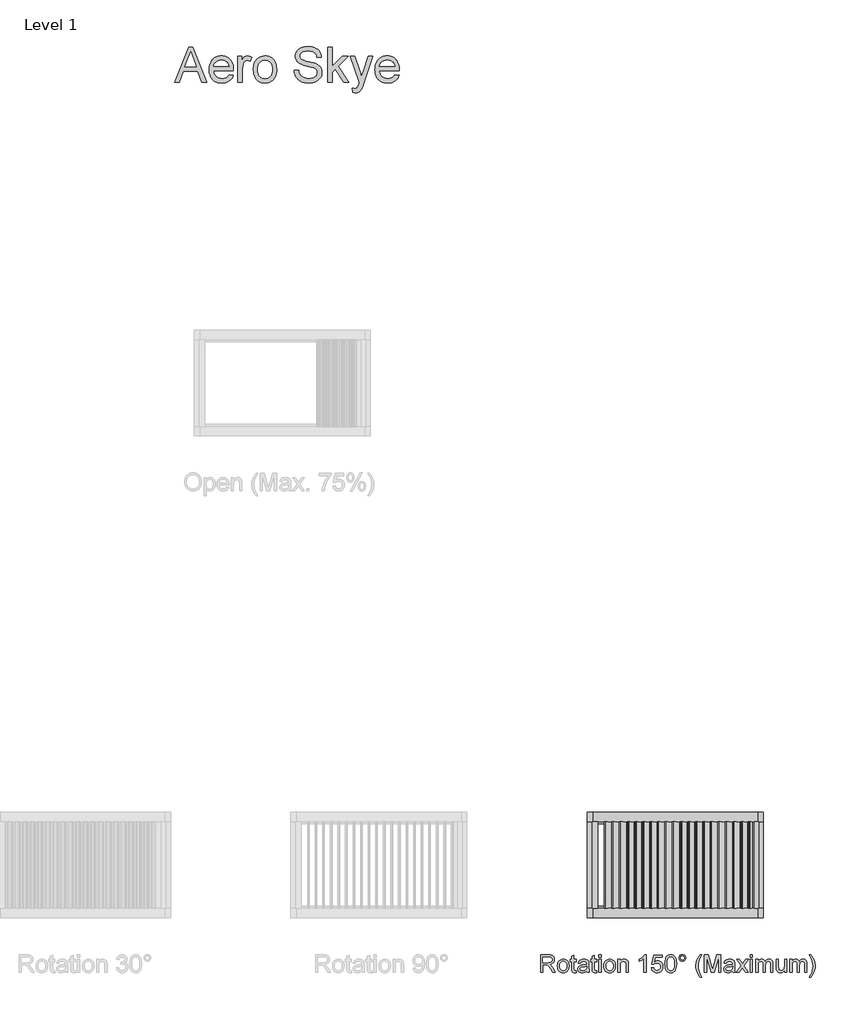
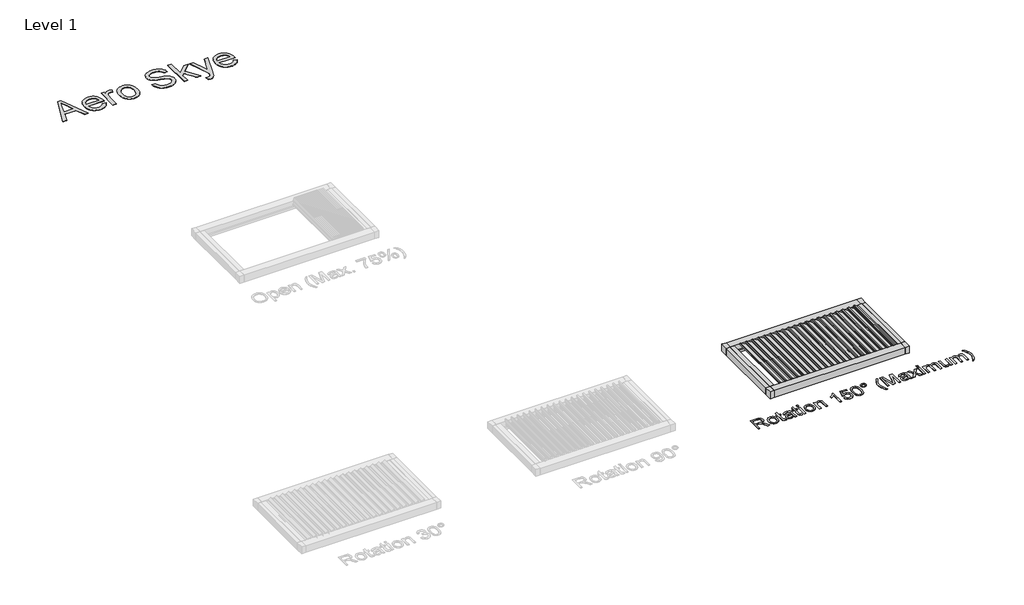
# One storey, part 12 of 12: 3 proxies.
"""IFC4 building model written with IfcOpenShell, lengths in millimetres."""

from ifc_helpers import new_model, si_unit, origin, origin_with_axes, place, context, project, spatial, polyline, outline, extrude, transform, mapped, element, save
from components import generic_models_ff80af85

model = new_model("IFC4")

# Units and contexts
model_context = context("Model", 3, world=origin())
ifc_project = project(units=[si_unit("LENGTHUNIT", "METRE", prefix="MILLI")], contexts=[model_context])

# Site, building, storey
site = spatial("IfcSite", under=ifc_project)
building = spatial("IfcBuilding", under=site)
storey = spatial("IfcBuildingStorey", under=building, Name="Level 1", Elevation=0.0)

# Proxies
placement = place(None, origin())
generic_models_shape = generic_models_ff80af85(model_context)
element("IfcBuildingElementProxy", 1, Name="Renson_Aero_Skye_Patio covers : Aero Skye - Single", ObjectType="Renson_Aero_Skye_Patio covers : Aero Skye - Single", at=placement, inside=storey, context=model_context, shape_type="MappedRepresentation", body=[
    mapped(generic_models_shape, transform((64654.2025974, 17701.5921629, 0.0), x_axis=(1.0, 0.0, 0.0), y_axis=(0.0, 1.0, 0.0), z_axis=(0.0, 0.0, 1.0))),
])
element("IfcBuildingElementProxy", 2, Name="1000mm Arial", ObjectType="1000mm Arial", at=placement, inside=storey, context=model_context, shape_type="SweptSolid", body=[
    extrude(outline(polyline([(50430.6996653, 39924.3053574), (50831.69104, 40928.8684589), (50938.6220733, 40928.8684589), (51339.613448, 39924.3053574), (51206.9306751, 39924.3053574), (51091.9062379, 40238.2313266), (50678.1616207, 40238.2313266), (50563.3824382, 39924.3053574), (50430.6996653, 39924.3053574)]), holes=[polyline([(50724.2694974, 40363.8017143), (51046.0436159, 40363.8017143), (50955.5446451, 40610.7731604), (50885.1565567, 40803.2980712), (50822.6166175, 40632.3555708), (50724.2694974, 40363.8017143)])]), origin_with_axes(), (0.0, 0.0, 1.0), 5.0),
    extrude(outline(polyline([(51974.5777717, 40144.0535358), (52097.6956128, 40128.3572374), (52078.8186679, 40079.0457216), (52053.3351755, 40035.5896609), (52021.2451356, 39997.9890553), (51982.5485483, 39966.2439048), (51937.6439522, 39941.0286598), (51886.9298864, 39923.0177704), (51830.4063506, 39912.2112368), (51768.0733451, 39908.6090589), (51728.0546818, 39910.1629771), (51690.1590042, 39914.8247318), (51654.3863123, 39922.5943229), (51620.736606, 39933.4717504), (51589.2098855, 39947.4570144), (51559.8061506, 39964.5501148), (51532.5254014, 39984.7510517), (51507.3676378, 40008.059825), (51484.7773841, 40034.1736985), (51465.1991641, 40062.789936), (51448.632978, 40093.9085374), (51435.0788258, 40127.5295029), (51424.5367074, 40163.6528323), (51417.0066228, 40202.2785258), (51412.488572, 40243.4065832), (51410.9825551, 40287.0370046), (51412.5039004, 40332.1523664), (51417.0679364, 40374.6695616), (51424.6746631, 40414.5885902), (51435.3240804, 40451.9094521), (51449.0161885, 40486.6321475), (51465.7509871, 40518.7566763), (51485.5284765, 40548.2830386), (51508.3486565, 40575.2112342), (51533.5945584, 40599.238527), (51560.6492135, 40620.0621808), (51589.5126217, 40637.6821955), (51620.184783, 40652.0985712), (51652.6656975, 40663.3113078), (51686.9553651, 40671.3204054), (51723.0537859, 40676.125864), (51760.9609598, 40677.7276835), (51797.6284481, 40676.1296961), (51832.5829858, 40671.3357338), (51865.8245729, 40663.3457968), (51897.3532096, 40652.1598848), (51927.1688956, 40637.7779981), (51955.2716312, 40620.2001365), (51981.6614162, 40599.4263001), (52006.3382506, 40575.4564889), (52028.6698374, 40548.5896069), (52048.0238792, 40519.1245583), (52064.4003761, 40487.0613432), (52077.7993282, 40452.3999615), (52088.2207353, 40415.1404131), (52095.6645976, 40375.2826982), (52101.6196874, 40287.7727686), (52100.8839234, 40253.9276251), (51536.5529428, 40253.9276251), (51543.8262764, 40203.8190316), (51558.2886373, 40159.9337753), (51579.9400256, 40122.271856), (51608.7804412, 40090.8332739), (51643.2157288, 40066.0472244), (51681.6517331, 40048.3429034), (51724.088454, 40037.7203108), (51770.5258917, 40034.1794466), (51805.2600834, 40035.8195872), (51837.3577875, 40040.7400089), (51866.819004, 40048.9407117), (51893.6437328, 40060.4216956), (51917.831974, 40075.489529), (51939.3837275, 40094.4507802), (51958.2989934, 40117.3054491), (51974.5777717, 40144.0535358)]), holes=[polyline([(51536.5529428, 40379.4980128), (51976.0492997, 40379.4980128), (51969.5960364, 40415.0292821), (51959.0654142, 40445.8393992), (51944.4574334, 40471.928364), (51925.7720937, 40493.2961766), (51891.5284113, 40519.0479163), (51852.5635766, 40537.442016), (51808.8775897, 40548.4784759), (51760.4704505, 40552.1572958), (51716.3169469, 40549.2219041), (51675.8269348, 40540.4157288), (51639.0004142, 40525.73877), (51605.8373852, 40505.1910278), (51578.0086451, 40479.7228638), (51557.1849913, 40450.28464), (51543.3664239, 40416.8763563), (51536.5529428, 40379.4980128)])]), origin_with_axes(), (0.0, 0.0, 1.0), 5.0),
    extrude(outline(polyline([(52227.1900751, 39924.3053574), (52227.1900751, 40662.0313851), (52337.0641643, 40662.0313851), (52337.0641643, 40552.8930598), (52377.6538111, 40616.168763), (52396.753018, 40638.0577417), (52415.0551473, 40653.4474718), (52452.5791108, 40671.6576306), (52493.5366396, 40677.7276835), (52524.6839818, 40675.3057937), (52556.0765788, 40668.0401243), (52587.7144303, 40655.9306753), (52619.5975366, 40638.9774467), (52577.6589891, 40526.4055562), (52533.5131497, 40545.7193609), (52511.44023, 40550.5478121), (52489.3673103, 40552.1572958), (52470.1224834, 40550.6091258), (52451.8740036, 40545.9646156), (52434.6218709, 40538.2237653), (52418.3660852, 40527.3865748), (52403.7197833, 40513.8055978), (52391.2961017, 40497.8333879), (52373.1165998, 40458.7152691), (52357.849497, 40388.5724353), (52352.7604628, 40312.0529803), (52352.7604628, 39924.3053574), (52227.1900751, 39924.3053574)])), origin_with_axes(), (0.0, 0.0, 1.0), 5.0),
    extrude(outline(polyline([(52666.686432, 40293.1683712), (52668.3840541, 40342.591018), (52673.4769205, 40388.7103911), (52681.9650311, 40431.5264903), (52693.8483859, 40471.0393159), (52709.1269851, 40507.2488677), (52727.8008284, 40540.1551457), (52749.869916, 40569.75815), (52775.3342479, 40596.0578806), (52823.1895641, 40631.7884194), (52876.0112872, 40657.3102328), (52933.7994173, 40672.6233208), (52996.5539543, 40677.7276835), (53032.021994, 40676.1737653), (53065.8307325, 40671.5120106), (53097.98017, 40663.7424195), (53128.4703064, 40652.864992), (53157.3011417, 40638.879728), (53184.472676, 40621.7866276), (53209.9849091, 40601.5856908), (53233.8378412, 40578.2769175), (53255.4221676, 40552.2281898), (53274.1285839, 40523.8073896), (53289.9570899, 40493.0145169), (53302.9076858, 40459.8495719), (53312.9803715, 40424.3125543), (53320.1751469, 40386.4034644), (53325.9309673, 40303.4690671), (53323.3864502, 40236.2539609), (53315.7528988, 40176.6110924), (53303.0303131, 40124.5404617), (53285.2186932, 40080.0420687), (53262.540301, 40041.6060644), (53235.2173987, 40007.7225998), (53203.2499861, 39978.3916749), (53166.6380634, 39953.6132897), (53126.8071732, 39933.9239387), (53085.1828583, 39919.8601166), (53041.7651187, 39911.4218234), (52996.5539543, 39908.6090589), (52960.5264275, 39910.157229), (52926.2655006, 39914.8017392), (52893.7711738, 39922.5425895), (52863.0434469, 39933.3797799), (52834.08232, 39947.3133105), (52806.8877932, 39964.3431812), (52781.4598663, 39984.469392), (52757.7985394, 40007.691943), (52736.4441393, 40033.826893), (52717.9369924, 40062.6903012), (52702.277099, 40094.2821676), (52689.4644588, 40128.602492), (52679.4990721, 40165.6512746), (52672.3809387, 40205.4285154), (52666.686432, 40293.1683712)]), holes=[polyline([(52792.2568197, 40293.4136259), (52795.8896544, 40232.5061631), (52806.7881585, 40179.7687462), (52824.952332, 40135.2013753), (52850.3821749, 40098.8040504), (52881.3149193, 40070.5307863), (52915.9877974, 40050.3355976), (52954.400809, 40038.2184844), (52996.5539543, 40034.1794466), (53038.4925018, 40038.241477), (53076.7522293, 40050.4275681), (53111.3331368, 40070.7377199), (53142.2352244, 40099.1719324), (53167.6650673, 40135.9294751), (53185.8292408, 40181.2096174), (53196.7277449, 40235.0123592), (53200.3605796, 40297.3377005), (53196.7047523, 40356.3137829), (53185.7372703, 40407.6716422), (53167.4581337, 40451.4112786), (53141.8673424, 40487.532692), (53110.8502917, 40515.8059562), (53076.2923768, 40536.0011449), (53038.1935976, 40548.1182581), (52996.5539543, 40552.1572958), (52954.400809, 40548.1335865), (52915.9877974, 40536.0624585), (52881.3149193, 40515.9439119), (52850.3821749, 40487.7779467), (52824.952332, 40451.4879207), (52806.7881585, 40406.9971919), (52795.8896544, 40354.3057603), (52792.2568197, 40293.4136259)])]), origin_with_axes(), (0.0, 0.0, 1.0), 5.0),
    extrude(outline(polyline([(53828.2125181, 40269.6239235), (53953.7829058, 40269.6239235), (53959.5310619, 40233.0733145), (53968.1916172, 40199.9409423), (53979.7645717, 40170.226807), (53994.2499252, 40143.9309085), (54012.3834419, 40120.5244166), (54034.9008857, 40099.4785008), (54061.8022566, 40080.7931611), (54093.0875546, 40064.4683976), (54127.6071485, 40051.2169815), (54164.211407, 40041.7516844), (54202.9003302, 40036.0725061), (54243.673918, 40034.1794466), (54313.6328107, 40039.9122744), (54345.3473044, 40047.0783091), (54374.8851629, 40057.1107576), (54401.5182865, 40069.6494023), (54424.5185754, 40084.3340253), (54443.8860296, 40101.1646266), (54459.6206491, 40120.1412062), (54471.799076, 40140.4436938), (54480.4979524, 40161.2520191), (54485.7172782, 40182.5661822), (54487.4570534, 40204.3861831), (54482.2453918, 40246.416701), (54466.610407, 40282.745048), (54453.4586257, 40298.8628779), (54434.8499281, 40313.7391061), (54410.7843143, 40327.3737326), (54381.2617842, 40339.7667573), (54314.9510545, 40359.4791009), (54198.4244326, 40387.714044), (54078.4029316, 40419.4438661), (54034.6019816, 40434.7339615), (54001.6075651, 40449.6408465), (53968.0766541, 40469.64443), (53939.0982828, 40491.8859623), (53914.6724511, 40516.3654434), (53894.7991592, 40543.0828733), (53879.4017649, 40571.7623405), (53868.403626, 40602.1279335), (53861.8047428, 40634.1796523), (53859.605115, 40667.917497), (53862.3259089, 40705.3111689), (53870.4882907, 40741.4632392), (53884.0922603, 40776.3737077), (53903.1378178, 40810.0425744), (53927.4103652, 40841.0979462), (53956.6953049, 40868.1679297), (53990.9926367, 40891.2525249), (54030.3023608, 40910.3517318), (54073.2985689, 40925.3199305), (54118.6553533, 40936.011501), (54166.3727137, 40942.4264433), (54216.4506503, 40944.5647573), (54271.0811266, 40942.3268085), (54322.4006649, 40935.6129621), (54370.4092653, 40924.4232181), (54415.1069277, 40908.7575765), (54455.6659177, 40888.753993), (54491.2585007, 40864.5504234), (54521.8846768, 40836.1468677), (54547.544446, 40803.5433259), (54568.0385388, 40767.6901598), (54583.1676858, 40729.5377312), (54592.9318871, 40689.0860401), (54597.3311427, 40646.3350866), (54471.760755, 40646.3350866), (54463.3607827, 40686.4035672), (54448.7068166, 40721.2603863), (54427.7988565, 40750.9055437), (54400.6369026, 40775.3390396), (54366.7151169, 40794.4382465), (54325.5276619, 40808.0805371), (54277.0745374, 40816.2659115), (54221.3557436, 40818.9943697), (54163.8588534, 40816.2965684), (54114.7312787, 40808.2031645), (54073.9730193, 40794.714158), (54041.5840753, 40775.8295489), (54016.9053248, 40753.1281641), (53999.2776458, 40728.1888305), (53988.7010385, 40701.0115481), (53985.1755027, 40671.5963169), (53987.6740346, 40646.2891013), (53995.1696302, 40623.3424619), (54007.6622896, 40602.7563986), (54025.1520128, 40584.5309114), (54052.6818488, 40567.2711145), (54096.0306106, 40549.8273765), (54155.1982981, 40532.1996976), (54230.1849115, 40514.3880777), (54368.631169, 40480.7268751), (54417.3448765, 40465.5057575), (54452.3856366, 40451.3576291), (54490.8829545, 40429.9131745), (54523.9693415, 40405.8015754), (54551.6447974, 40379.0228318), (54573.9093223, 40349.5769438), (54591.0234993, 40317.6171955), (54603.2479114, 40283.296871), (54610.5825587, 40246.6159704), (54613.0274411, 40207.5744937), (54610.2146767, 40168.2954265), (54601.7763834, 40130.1659905), (54587.7125613, 40093.1861858), (54568.0232104, 40057.3560123), (54543.05322, 40024.0626917), (54513.1474794, 39994.6934458), (54478.3059888, 39969.2482745), (54438.5287481, 39947.7271778), (54394.9730527, 39930.6130008), (54348.7961981, 39918.3885886), (54299.9981843, 39911.0539414), (54248.5790112, 39908.6090589), (54184.345282, 39911.2455466), (54125.5531407, 39919.1550095), (54072.2025872, 39932.3374476), (54024.2936215, 39950.792861), (53981.5350038, 39974.5519066), (53943.6354941, 40003.645241), (53910.5950924, 40038.0728644), (53882.4137987, 40077.8347767), (53859.7124139, 40121.643391), (53843.1117389, 40168.2111202), (53832.6117736, 40217.5379644), (53828.2125181, 40269.6239235)])), origin_with_axes(), (0.0, 0.0, 1.0), 5.0),
    extrude(outline(polyline([(54785.6867242, 39924.3053574), (54785.6867242, 40928.8684589), (54911.2571119, 40928.8684589), (54911.2571119, 40389.0629446), (55192.8094655, 40662.0313851), (55366.4497672, 40662.0313851), (55081.4638483, 40385.6293793), (55382.1460657, 39924.3053574), (55235.483777, 39924.3053574), (54991.4553868, 40298.3187192), (54911.2571119, 40220.5729908), (54911.2571119, 39924.3053574), (54785.6867242, 39924.3053574)])), origin_with_axes(), (0.0, 0.0, 1.0), 5.0),
    extrude(outline(polyline([(55492.0201549, 39641.7719851), (55476.3238565, 39762.6825342), (55510.536882, 39754.4051893), (55540.090069, 39751.6460743), (55573.6286442, 39755.1102964), (55599.6869522, 39765.5029628), (55619.9817756, 39782.0883094), (55636.229897, 39804.1305723), (55650.0867855, 39836.5655015), (55670.5655499, 39896.5915804), (55680.3757365, 39927.0031587), (55413.5386626, 40662.0313851), (55545.9761809, 40662.0313851), (55687.4881217, 40252.4560971), (55713.5464297, 40172.5030768), (55736.7843091, 40088.6259819), (55786.0804964, 40233.3262333), (55931.5165118, 40662.0313851), (56062.9730114, 40662.0313851), (55806.1913788, 39906.6470216), (55768.0542786, 39806.2152369), (55739.4821103, 39742.8169064), (55705.3303985, 39690.5163495), (55686.5530883, 39670.3901386), (55666.6414753, 39654.2799729), (55645.1663638, 39641.9405977), (55621.6985582, 39633.1267582), (55596.2380585, 39627.8384545), (55568.7848646, 39626.0756866), (55532.4258607, 39629.9997612), (55492.0201549, 39641.7719851)])), origin_with_axes(), (0.0, 0.0, 1.0), 5.0),
    extrude(outline(polyline([(56683.46731, 40144.0535358), (56806.585151, 40128.3572374), (56787.7082061, 40079.0457216), (56762.2247138, 40035.5896609), (56730.1346739, 39997.9890553), (56691.4380865, 39966.2439048), (56646.5334905, 39941.0286598), (56595.8194246, 39923.0177704), (56539.2958889, 39912.2112368), (56476.9628833, 39908.6090589), (56436.9442201, 39910.1629771), (56399.0485425, 39914.8247318), (56363.2758505, 39922.5943229), (56329.6261443, 39933.4717504), (56298.0994237, 39947.4570144), (56268.6956888, 39964.5501148), (56241.4149396, 39984.7510517), (56216.2571761, 40008.059825), (56193.6669223, 40034.1736985), (56174.0887024, 40062.789936), (56157.5225163, 40093.9085374), (56143.968364, 40127.5295029), (56133.4262456, 40163.6528323), (56125.896161, 40202.2785258), (56121.3781103, 40243.4065832), (56119.8720934, 40287.0370046), (56121.3934387, 40332.1523664), (56125.9574747, 40374.6695616), (56133.5642014, 40414.5885902), (56144.2136187, 40451.9094521), (56157.9057267, 40486.6321475), (56174.6405254, 40518.7566763), (56194.4180147, 40548.2830386), (56217.2381948, 40575.2112342), (56242.4840967, 40599.238527), (56269.5387517, 40620.0621808), (56298.4021599, 40637.6821955), (56329.0743213, 40652.0985712), (56361.5552358, 40663.3113078), (56395.8449034, 40671.3204054), (56431.9433242, 40676.125864), (56469.8504981, 40677.7276835), (56506.5179863, 40676.1296961), (56541.472524, 40671.3357338), (56574.7141112, 40663.3457968), (56606.2427478, 40652.1598848), (56636.0584339, 40637.7779981), (56664.1611694, 40620.2001365), (56690.5509544, 40599.4263001), (56715.2277889, 40575.4564889), (56737.5593756, 40548.5896069), (56756.9134175, 40519.1245583), (56773.2899144, 40487.0613432), (56786.6888665, 40452.3999615), (56797.1102736, 40415.1404131), (56804.5541358, 40375.2826982), (56810.5092256, 40287.7727686), (56809.7734617, 40253.9276251), (56245.442481, 40253.9276251), (56252.7158147, 40203.8190316), (56267.1781756, 40159.9337753), (56288.8295639, 40122.271856), (56317.6699794, 40090.8332739), (56352.105267, 40066.0472244), (56390.5412713, 40048.3429034), (56432.9779923, 40037.7203108), (56479.41543, 40034.1794466), (56514.1496217, 40035.8195872), (56546.2473258, 40040.7400089), (56575.7085422, 40048.9407117), (56602.533271, 40060.4216956), (56626.7215122, 40075.489529), (56648.2732658, 40094.4507802), (56667.1885317, 40117.3054491), (56683.46731, 40144.0535358)]), holes=[polyline([(56245.442481, 40379.4980128), (56684.938838, 40379.4980128), (56678.4855746, 40415.0292821), (56667.9549525, 40445.8393992), (56653.3469716, 40471.928364), (56634.6616319, 40493.2961766), (56600.4179496, 40519.0479163), (56561.4531149, 40537.442016), (56517.767128, 40548.4784759), (56469.3599888, 40552.1572958), (56425.2064852, 40549.2219041), (56384.7164731, 40540.4157288), (56347.8899525, 40525.73877), (56314.7269235, 40505.1910278), (56286.8981834, 40479.7228638), (56266.0745296, 40450.28464), (56252.2559622, 40416.8763563), (56245.442481, 40379.4980128)])]), origin_with_axes(), (0.0, 0.0, 1.0), 5.0),
])
element("IfcBuildingElementProxy", 3, Name="500mm Arial", ObjectType="500mm Arial", at=placement, inside=storey, context=model_context, shape_type="SweptSolid", body=[
    extrude(outline(polyline([(60822.9925993, 14645.8072853), (60822.9925993, 15148.088836), (61039.4298398, 15148.088836), (61097.6011803, 15144.701256), (61139.9229382, 15134.5385159), (61170.8556826, 15115.7765341), (61194.8599828, 15086.5912292), (61210.2650413, 15050.4008379), (61215.4000608, 15010.6235972), (61213.2732431, 14984.8258723), (61206.8927897, 14961.1434688), (61196.2587008, 14939.5763869), (61181.3709763, 14920.1246264), (61162.038011, 14903.4089882), (61138.0681998, 14890.0502733), (61109.4615425, 14880.0484815), (61076.2180393, 14873.403613), (61096.9114016, 14859.8839496), (61111.9025929, 14846.5482273), (61162.7929355, 14781.9236235), (61246.5474031, 14645.8072853), (61173.5841407, 14645.8072853), (61108.2237729, 14749.9178899), (61061.0122502, 14818.8344504), (61043.4612133, 14838.9300043), (61027.841557, 14851.3920069), (60997.9818017, 14863.3481718), (60961.5614842, 14865.5554637), (60885.7777932, 14865.5554637), (60885.7777932, 14645.8072853), (60822.9925993, 14645.8072853)]), holes=[polyline([(60885.7777932, 14928.3406576), (61026.3087153, 14928.3406576), (61066.6684359, 14930.563278), (61097.9843907, 14937.2311391), (61121.5594952, 14948.7887652), (61138.6966648, 14965.6806801), (61149.1353165, 14986.1134592), (61152.614867, 15008.2936779), (61150.9555659, 15024.3501941), (61145.9776627, 15038.919854), (61137.6811573, 15052.0026574), (61126.0660497, 15063.5986045), (61110.8640927, 15073.0945585), (61091.8070389, 15079.8773828), (61042.1276411, 15085.3036422), (60885.7777932, 15085.3036422), (60885.7777932, 14928.3406576)])]), origin_with_axes(), (0.0, 0.0, 1.0), 5.0),
    extrude(outline(polyline([(61301.7297024, 14830.2387922), (61305.1249466, 14878.0098021), (61315.3106794, 14919.1742645), (61332.2869006, 14953.7321795), (61356.0536103, 14981.6835469), (61379.9812684, 14999.5488163), (61406.39213, 15012.309723), (61435.286195, 15019.966267), (61466.6634635, 15022.5184484), (61501.3018527, 15019.4106119), (61532.6216396, 15010.0871026), (61560.6228244, 14994.5479204), (61585.305407, 14972.7930653), (61605.4507783, 14945.5583014), (61619.8403293, 14913.5793925), (61628.4740599, 14876.8563388), (61631.3519701, 14835.3891401), (61626.2629358, 14771.9601528), (61619.901643, 14745.9248374), (61610.995833, 14723.6756409), (61599.6566369, 14704.4576388), (61585.9951857, 14687.5159065), (61570.0114795, 14672.850444), (61551.7055181, 14660.4612514), (61510.9779156, 14643.5846649), (61466.6634635, 14637.9591361), (61431.5192367, 14641.0554762), (61399.9082098, 14650.3444966), (61371.830383, 14665.8261972), (61347.2857561, 14687.5005781), (61327.3549826, 14714.9997572), (61313.1187158, 14747.9558526), (61304.5769557, 14786.3688643), (61301.7297024, 14830.2387922)]), holes=[polyline([(61364.5148962, 14830.3614195), (61366.3313136, 14799.9076881), (61371.7805656, 14773.5389797), (61380.8626524, 14751.2552943), (61393.5775738, 14733.0566318), (61409.0439461, 14718.9199997), (61426.3803851, 14708.8224054), (61445.5868909, 14702.7638488), (61466.6634635, 14700.7443299), (61487.6327373, 14702.7753451), (61506.762601, 14708.8683906), (61524.0530548, 14719.0234665), (61539.5040986, 14733.2405728), (61552.2190201, 14751.6193442), (61561.3011068, 14774.2594153), (61566.7503589, 14801.1607862), (61568.5667762, 14832.3234568), (61566.7388625, 14861.811498), (61561.2551216, 14887.4904277), (61552.1155532, 14909.3602459), (61539.3201576, 14927.4209526), (61523.8116322, 14941.5575847), (61506.5326748, 14951.655179), (61487.4832852, 14957.7137356), (61466.6634635, 14959.7332545), (61445.5868909, 14957.7213998), (61426.3803851, 14951.6858359), (61409.0439461, 14941.6265626), (61393.5775738, 14927.5435799), (61380.8626524, 14909.3985669), (61371.7805656, 14887.1532025), (61366.3313136, 14860.8074867), (61364.5148962, 14830.3614195)])]), origin_with_axes(), (0.0, 0.0, 1.0), 5.0),
    extrude(outline(polyline([(61835.40385, 14698.1691559), (61843.2519993, 14643.9678753), (61796.2857312, 14637.9591361), (61766.1500645, 14640.5649669), (61743.6786059, 14648.3824593), (61727.7983665, 14660.4305946), (61717.4363569, 14675.7283542), (61711.734186, 14702.0012601), (61709.8334624, 14746.974834), (61709.8334624, 14951.8851053), (61662.744567, 14951.8851053), (61662.744567, 15014.6702991), (61709.8334624, 15014.6702991), (61709.8334624, 15104.3108786), (61772.6186562, 15141.2217055), (61772.6186562, 15014.6702991), (61835.40385, 15014.6702991), (61835.40385, 14951.8851053), (61772.6186562, 14951.8851053), (61772.6186562, 14748.8142439), (61775.9295942, 14716.4406284), (61786.6594857, 14704.9749728), (61808.0579551, 14700.7443299), (61835.40385, 14698.1691559)])), origin_with_axes(), (0.0, 0.0, 1.0), 5.0),
    extrude(outline(polyline([(62133.6335208, 14692.8961807), (62103.6358098, 14667.1750978), (62072.7490506, 14650.3444966), (62040.2681361, 14641.0554762), (62005.4879592, 14637.9591361), (61977.5327596, 14639.8215387), (61953.0187896, 14645.4087465), (61931.9460491, 14654.7207595), (61914.314538, 14667.7575777), (61900.3925038, 14683.6914666), (61890.4481936, 14701.6946917), (61884.4816075, 14721.7672531), (61882.4927454, 14743.9091507), (61885.4971151, 14769.9368018), (61894.5102239, 14793.57322), (61908.4130977, 14813.8067298), (61926.0867619, 14829.6256555), (61946.8567662, 14841.5818204), (61970.0486603, 14850.2270473), (62024.3725682, 14859.6693518), (62088.5679764, 14869.6021657), (62133.2656388, 14881.2517622), (62133.6335208, 14895.231278), (62129.3109074, 14923.2516233), (62116.343067, 14941.5844094), (62103.2679278, 14949.5245291), (62087.3417031, 14955.1960432), (62046.9359973, 14959.7332545), (62009.5346611, 14956.7135565), (61983.4150394, 14947.6544623), (61965.6034195, 14930.9005031), (61953.1260885, 14904.7962099), (61890.3408947, 14912.6443591), (61901.2393988, 14946.980012), (61917.5028486, 14973.958025), (61940.6487575, 14994.5900735), (61972.1946386, 15009.8878332), (62010.7762628, 15019.3607946), (62055.0294012, 15022.5184484), (62097.4737864, 15019.7286766), (62131.1196605, 15011.3593612), (62156.4881898, 14998.7747312), (62174.1005403, 14983.3390159), (62185.7807936, 14964.2551374), (62193.3530314, 14940.7260181), (62196.4187146, 14885.7889735), (62196.4187146, 14807.6753632), (62199.6070253, 14698.5983516), (62204.3281775, 14671.635667), (62212.1150131, 14645.8072853), (62149.3298193, 14645.8072853), (62139.2743781, 14667.6349503), (62133.6335208, 14692.8961807)]), holes=[polyline([(62133.6335208, 14818.4665684), (62091.4497187, 14808.0125883), (62032.3433448, 14799.2140773), (61978.3260052, 14789.0360087), (61964.2698473, 14782.0769077), (61953.8618525, 14772.481319), (61947.4239176, 14760.9850066), (61945.2779393, 14748.3237346), (61949.9531063, 14729.6537234), (61963.9786074, 14714.3559637), (61987.0478741, 14704.1472384), (62018.8543383, 14700.7443299), (62052.5768545, 14704.4997919), (62082.3752961, 14715.766178), (62106.5328805, 14732.3668531), (62123.3328249, 14752.1251819), (62130.7824353, 14772.481319), (62133.2656388, 14800.6856053), (62133.6335208, 14818.4665684)])]), origin_with_axes(), (0.0, 0.0, 1.0), 5.0),
    extrude(outline(polyline([(62416.1668931, 14698.1691559), (62424.0150423, 14643.9678753), (62377.0487743, 14637.9591361), (62346.9131075, 14640.5649669), (62324.441649, 14648.3824593), (62308.5614095, 14660.4305946), (62298.1994, 14675.7283542), (62292.4972291, 14702.0012601), (62290.5965054, 14746.974834), (62290.5965054, 14951.8851053), (62243.50761, 14951.8851053), (62243.50761, 15014.6702991), (62290.5965054, 15014.6702991), (62290.5965054, 15104.3108786), (62353.3816993, 15141.2217055), (62353.3816993, 15014.6702991), (62416.1668931, 15014.6702991), (62416.1668931, 14951.8851053), (62353.3816993, 14951.8851053), (62353.3816993, 14748.8142439), (62356.6926372, 14716.4406284), (62367.4225287, 14704.9749728), (62388.8209981, 14700.7443299), (62416.1668931, 14698.1691559)])), origin_with_axes(), (0.0, 0.0, 1.0), 5.0),
    extrude(outline(polyline([(62478.9520869, 15085.3036422), (62478.9520869, 15148.088836), (62541.7372808, 15148.088836), (62541.7372808, 15085.3036422), (62478.9520869, 15085.3036422)])), origin_with_axes(), (0.0, 0.0, 1.0), 5.0),
    extrude(outline(polyline([(62478.9520869, 14645.8072853), (62478.9520869, 15014.6702991), (62541.7372808, 15014.6702991), (62541.7372808, 14645.8072853), (62478.9520869, 14645.8072853)])), origin_with_axes(), (0.0, 0.0, 1.0), 5.0),
    extrude(outline(polyline([(62620.2187731, 14830.2387922), (62623.6140173, 14878.0098021), (62633.7997501, 14919.1742645), (62650.7759713, 14953.7321795), (62674.542681, 14981.6835469), (62698.4703391, 14999.5488163), (62724.8812007, 15012.309723), (62753.7752658, 15019.966267), (62785.1525343, 15022.5184484), (62819.7909234, 15019.4106119), (62851.1107103, 15010.0871026), (62879.1118951, 14994.5479204), (62903.7944777, 14972.7930653), (62923.939849, 14945.5583014), (62938.3294, 14913.5793925), (62946.9631306, 14876.8563388), (62949.8410408, 14835.3891401), (62944.7520065, 14771.9601528), (62938.3907137, 14745.9248374), (62929.4849037, 14723.6756409), (62918.1457076, 14704.4576388), (62904.4842564, 14687.5159065), (62888.5005502, 14672.850444), (62870.1945888, 14660.4612514), (62829.4669863, 14643.5846649), (62785.1525343, 14637.9591361), (62750.0083074, 14641.0554762), (62718.3972806, 14650.3444966), (62690.3194537, 14665.8261972), (62665.7748268, 14687.5005781), (62645.8440533, 14714.9997572), (62631.6077865, 14747.9558526), (62623.0660264, 14786.3688643), (62620.2187731, 14830.2387922)]), holes=[polyline([(62683.0039669, 14830.3614195), (62684.8203843, 14799.9076881), (62690.2696363, 14773.5389797), (62699.3517231, 14751.2552943), (62712.0666446, 14733.0566318), (62727.5330168, 14718.9199997), (62744.8694558, 14708.8224054), (62764.0759616, 14702.7638488), (62785.1525343, 14700.7443299), (62806.121808, 14702.7753451), (62825.2516717, 14708.8683906), (62842.5421255, 14719.0234665), (62857.9931693, 14733.2405728), (62870.7080908, 14751.6193442), (62879.7901775, 14774.2594153), (62885.2394296, 14801.1607862), (62887.0558469, 14832.3234568), (62885.2279333, 14861.811498), (62879.7441923, 14887.4904277), (62870.604624, 14909.3602459), (62857.8092283, 14927.4209526), (62842.300703, 14941.5575847), (62825.0217455, 14951.655179), (62805.9723559, 14957.7137356), (62785.1525343, 14959.7332545), (62764.0759616, 14957.7213998), (62744.8694558, 14951.6858359), (62727.5330168, 14941.6265626), (62712.0666446, 14927.5435799), (62699.3517231, 14909.3985669), (62690.2696363, 14887.1532025), (62684.8203843, 14860.8074867), (62683.0039669, 14830.3614195)])]), origin_with_axes(), (0.0, 0.0, 1.0), 5.0),
    extrude(outline(polyline([(63020.4743838, 14645.8072853), (63020.4743838, 15014.6702991), (63083.2595777, 15014.6702991), (63083.2595777, 14963.1668198), (63105.0719143, 14989.1331573), (63131.2681781, 15007.6805412), (63161.8483689, 15018.8089716), (63196.8124869, 15022.5184484), (63227.7605597, 15019.5294071), (63256.1028018, 15010.5622835), (63279.7392199, 14996.7360519), (63296.5698212, 14979.1696866), (63307.9894915, 14957.9091729), (63315.3931166, 14933.0004962), (63318.7040546, 14872.299967), (63318.7040546, 14645.8072853), (63255.9188608, 14645.8072853), (63255.9188608, 14863.8386811), (63254.1101076, 14896.3042672), (63248.6838482, 14919.3888624), (63238.6743922, 14935.9282237), (63223.1160495, 14948.7581083), (63203.1737797, 14956.989468), (63180.0125424, 14959.7332545), (63160.9478244, 14958.1927487), (63143.2396713, 14953.5712311), (63126.8880831, 14945.8687018), (63111.8930596, 14935.0851608), (63099.3659113, 14919.9943348), (63090.4179482, 14899.3699505), (63085.0491703, 14873.2120078), (63083.2595777, 14841.5205067), (63083.2595777, 14645.8072853), (63020.4743838, 14645.8072853)])), origin_with_axes(), (0.0, 0.0, 1.0), 5.0),
    extrude(outline(polyline([(63820.9856053, 14645.8072853), (63758.2004115, 14645.8072853), (63758.2004115, 15037.2337282), (63731.9888193, 15016.0345282), (63698.7261556, 14994.865985), (63632.6300238, 14963.1668198), (63632.6300238, 15022.5184484), (63681.9415396, 15049.3431772), (63724.6618363, 15081.2569402), (63758.3383673, 15115.1940543), (63780.5185859, 15148.088836), (63820.9856053, 15148.088836), (63820.9856053, 14645.8072853)])), origin_with_axes(), (0.0, 0.0, 1.0), 5.0),
    extrude(outline(polyline([(63970.1004407, 14779.2258222), (64032.8856346, 14787.0739714), (64044.4126038, 14749.3813953), (64053.3950558, 14734.5473203), (64064.5234862, 14722.388054), (64077.7749022, 14712.9189247), (64093.1263113, 14706.1552609), (64130.1291086, 14700.7443299), (64154.0414383, 14702.625893), (64175.1333394, 14708.2705824), (64193.4048118, 14717.678398), (64208.8558556, 14730.8493398), (64221.1415814, 14747.1319502), (64229.9170998, 14765.8747715), (64235.1824109, 14787.0778035), (64236.9375146, 14810.7410465), (64235.2935419, 14833.1052061), (64230.3616239, 14852.9861622), (64222.1417606, 14870.3839149), (64210.6339519, 14885.2984641), (64195.7998769, 14897.2622932), (64177.6012144, 14905.8078854), (64156.0379646, 14910.9352407), (64131.1101273, 14912.6443591), (64100.6525638, 14909.915901), (64075.9891417, 14901.7305266), (64056.2921265, 14889.1918819), (64040.7337838, 14873.403613), (63977.94859, 14881.2517622), (64032.8856346, 15140.2406868), (64276.1782607, 15140.2406868), (64276.1782607, 15077.455493), (64083.6533499, 15077.455493), (64056.7979643, 14939.1318628), (64078.9551903, 14955.0121022), (64101.6489108, 14966.3551304), (64124.879126, 14973.1609473), (64148.6458357, 14975.429553), (64179.2221945, 14972.6167885), (64207.3076855, 14964.1784953), (64232.9023089, 14950.1146732), (64256.0060646, 14930.4253222), (64275.1320963, 14906.3137231), (64288.7935475, 14878.9831566), (64296.9904182, 14848.4336225), (64299.7227084, 14814.6651211), (64297.2624976, 14782.1382213), (64289.881865, 14751.8799272), (64277.5808108, 14723.8902388), (64260.3593349, 14698.1691559), (64234.2703701, 14671.8272722), (64203.828135, 14653.011641), (64169.0326296, 14641.7222623), (64129.883854, 14637.9591361), (64097.4834137, 14640.3771938), (64068.2176345, 14647.6313668), (64042.0865166, 14659.7216553), (64019.0900598, 14676.6480592), (63999.9563639, 14697.5675156), (63985.4135288, 14721.6369615), (63975.4615544, 14748.8563971), (63970.1004407, 14779.2258222)])), origin_with_axes(), (0.0, 0.0, 1.0), 5.0),
    extrude(outline(polyline([(64354.659753, 14892.9013587), (64359.2736064, 14973.2989031), (64373.1151664, 15037.4176692), (64383.4618476, 15063.617765), (64396.0464775, 15086.2386756), (64410.8690562, 15105.280401), (64427.9295837, 15120.7429411), (64447.2855416, 15132.7067701), (64468.9944114, 15141.2523623), (64493.0561932, 15146.3797176), (64519.4708869, 15148.088836), (64558.15981, 15144.0421341), (64592.8020312, 15131.9020282), (64621.7727383, 15112.1436994), (64643.4471192, 15085.2423285), (64659.817868, 15051.4278418), (64672.8776788, 15010.9301655), (64681.4309352, 14959.5033283), (64684.2820207, 14892.9013587), (64679.7141526, 14812.9636668), (64666.0105483, 14748.9981849), (64655.7443413, 14722.7865928), (64643.217193, 14700.1311932), (64628.4291032, 14681.0319863), (64611.380072, 14665.488972), (64592.0011215, 14653.4446688), (64570.2232738, 14644.8415951), (64546.0465289, 14639.6797508), (64519.4708869, 14637.9591361), (64484.8899793, 14640.9481773), (64454.2331464, 14649.9153009), (64427.5003881, 14664.860507), (64404.6917044, 14685.7837954), (64382.8027256, 14723.6066631), (64367.1677409, 14770.7338795), (64357.78675, 14827.1654447), (64354.659753, 14892.9013587)]), holes=[polyline([(64417.4449469, 14893.023986), (64419.2843568, 14838.4433271), (64424.8025868, 14794.2629988), (64433.9996366, 14760.483001), (64446.8755065, 14737.1033338), (64462.4491776, 14721.1962696), (64479.7396314, 14709.8340809), (64498.7468678, 14703.0167676), (64519.4708869, 14700.7443299), (64540.1949059, 14703.0244319), (64559.2021423, 14709.8647377), (64576.4925961, 14721.2652474), (64592.0662672, 14737.2259611), (64604.9421371, 14760.6439493), (64614.1391869, 14794.4162829), (64619.6574169, 14838.5429618), (64621.4968269, 14893.023986), (64619.7187305, 14946.1599417), (64614.3844416, 14989.5623529), (64605.4939601, 15023.2312197), (64593.0472859, 15047.166542), (64577.7341978, 15063.8515233), (64560.2444747, 15075.7693672), (64540.5781163, 15082.9200734), (64518.7351229, 15085.3036422), (64498.1184027, 15083.2036491), (64479.433063, 15076.90367), (64462.6791039, 15066.4037047), (64447.8565251, 15051.7037533), (64434.5514596, 15025.6454453), (64425.0478414, 14990.5127148), (64419.3456705, 14946.3055617), (64417.4449469, 14893.023986)])]), origin_with_axes(), (0.0, 0.0, 1.0), 5.0),
    extrude(outline(polyline([(64754.9153638, 15061.8818218), (64756.6436427, 15080.7127815), (64761.8284796, 15098.0875415), (64770.4698744, 15114.006102), (64782.5678271, 15128.468463), (64797.0876696, 15140.4859415), (64812.9947338, 15149.0698547), (64830.2890196, 15154.2202026), (64848.9705272, 15155.9369853), (64867.9087857, 15154.2202026), (64885.3601879, 15149.0698547), (64901.3247336, 15140.4859415), (64915.802423, 15128.468463), (64927.8199015, 15114.006102), (64936.4038147, 15098.0875415), (64941.5541627, 15080.7127815), (64943.2709453, 15061.8818218), (64941.5426663, 15043.0930154), (64936.3578295, 15025.7220874), (64927.7164347, 15009.769038), (64915.618482, 14995.233867), (64901.0833111, 14983.1359143), (64885.1302616, 14974.4945196), (64867.7593337, 14969.3096827), (64848.9705272, 14967.5814037), (64830.2890196, 14969.2981864), (64812.9947338, 14974.4485343), (64797.0876696, 14983.0324475), (64782.5678271, 14995.049926), (64770.4698744, 15009.5276154), (64761.8284796, 15025.4921611), (64756.6436427, 15042.9435633), (64754.9153638, 15061.8818218)]), holes=[polyline([(64794.1561099, 15061.7591945), (64798.1874835, 15040.6366366), (64810.281604, 15022.8863303), (64828.0778956, 15010.838195), (64849.2157819, 15006.8221499), (64870.1697272, 15010.838195), (64887.904705, 15022.8863303), (64899.9988256, 15040.6366366), (64904.0301991, 15061.7591945), (64899.9988256, 15082.8817524), (64887.904705, 15100.6320587), (64870.1697272, 15112.680194), (64849.2157819, 15116.6962391), (64828.0778956, 15112.680194), (64810.281604, 15100.6320587), (64798.1874835, 15082.8817524), (64794.1561099, 15061.7591945)])]), origin_with_axes(), (0.0, 0.0, 1.0), 5.0),
    extrude(outline(polyline([(65359.2228545, 14504.5405991), (65333.8773179, 14537.3357462), (65310.5704607, 14572.8133661), (65270.0727843, 14651.8160245), (65254.1388954, 14694.3830371), (65242.7575462, 14737.7164704), (65235.9287367, 14781.8163246), (65233.6524668, 14826.6825996), (65235.3539211, 14866.1149509), (65240.4582837, 14904.7042394), (65248.9655549, 14942.4504649), (65260.8757345, 14979.3536276), (65278.9785943, 15021.6753854), (65301.4040676, 15063.9051728), (65328.1521543, 15106.0429897), (65359.2228545, 15148.088836), (65406.3117499, 15148.088836), (65347.573258, 15048.63807), (65327.5236893, 15001.4265473), (65312.2565865, 14952.2529873), (65300.3923921, 14889.4371366), (65296.4376607, 14826.3147176), (65298.1544433, 14786.0661281), (65303.3047912, 14745.8252027), (65311.8887045, 14705.5919416), (65323.906183, 14665.3663447), (65358.2418359, 14584.9381435), (65406.3117499, 14504.5405991), (65359.2228545, 14504.5405991)])), origin_with_axes(), (0.0, 0.0, 1.0), 5.0),
    extrude(outline(polyline([(65476.945093, 14645.8072853), (65476.945093, 15148.088836), (65584.9797722, 15148.088836), (65687.7414762, 14794.0637293), (65708.4654953, 14720.1194483), (65730.906297, 14800.1950959), (65831.9512183, 15148.088836), (65939.9858976, 15148.088836), (65939.9858976, 14645.8072853), (65877.2007037, 14645.8072853), (65877.2007037, 15085.3036422), (65751.0171794, 14645.8072853), (65665.9138112, 14645.8072853), (65539.7302868, 15085.3036422), (65539.7302868, 14645.8072853), (65476.945093, 14645.8072853)])), origin_with_axes(), (0.0, 0.0, 1.0), 5.0),
    extrude(outline(polyline([(66277.4563145, 14692.8961807), (66247.4586035, 14667.1750978), (66216.5718443, 14650.3444966), (66184.0909298, 14641.0554762), (66149.3107528, 14637.9591361), (66121.3555533, 14639.8215387), (66096.8415833, 14645.4087465), (66075.7688427, 14654.7207595), (66058.1373317, 14667.7575777), (66044.2152974, 14683.6914666), (66034.2709872, 14701.6946917), (66028.3044011, 14721.7672531), (66026.3155391, 14743.9091507), (66029.3199087, 14769.9368018), (66038.3330176, 14793.57322), (66052.2358913, 14813.8067298), (66069.9095555, 14829.6256555), (66090.6795598, 14841.5818204), (66113.871454, 14850.2270473), (66168.1953619, 14859.6693518), (66232.3907701, 14869.6021657), (66277.0884325, 14881.2517622), (66277.4563145, 14895.231278), (66273.133701, 14923.2516233), (66260.1658607, 14941.5844094), (66247.0907215, 14949.5245291), (66231.1644967, 14955.1960432), (66190.7587909, 14959.7332545), (66153.3574548, 14956.7135565), (66127.2378331, 14947.6544623), (66109.4262132, 14930.9005031), (66096.9488822, 14904.7962099), (66034.1636883, 14912.6443591), (66045.0621924, 14946.980012), (66061.3256423, 14973.958025), (66084.4715512, 14994.5900735), (66116.0174323, 15009.8878332), (66154.5990565, 15019.3607946), (66198.8521948, 15022.5184484), (66241.29658, 15019.7286766), (66274.9424542, 15011.3593612), (66300.3109834, 14998.7747312), (66317.9233339, 14983.3390159), (66329.6035873, 14964.2551374), (66337.175825, 14940.7260181), (66340.2415083, 14885.7889735), (66340.2415083, 14807.6753632), (66343.4298189, 14698.5983516), (66348.1509712, 14671.635667), (66355.9378068, 14645.8072853), (66293.1526129, 14645.8072853), (66283.0971717, 14667.6349503), (66277.4563145, 14692.8961807)]), holes=[polyline([(66277.4563145, 14818.4665684), (66235.2725124, 14808.0125883), (66176.1661385, 14799.2140773), (66122.1487988, 14789.0360087), (66108.0926409, 14782.0769077), (66097.6846462, 14772.481319), (66091.2467112, 14760.9850066), (66089.1007329, 14748.3237346), (66093.7759, 14729.6537234), (66107.801401, 14714.3559637), (66130.8706678, 14704.1472384), (66162.677132, 14700.7443299), (66196.3996482, 14704.4997919), (66226.1980898, 14715.766178), (66250.3556742, 14732.3668531), (66267.1556186, 14752.1251819), (66274.605229, 14772.481319), (66277.0884325, 14800.6856053), (66277.4563145, 14818.4665684)])]), origin_with_axes(), (0.0, 0.0, 1.0), 5.0),
    extrude(outline(polyline([(66387.3304037, 14645.8072853), (66521.4847046, 14831.2198109), (66395.1785529, 15014.6702991), (66470.7169893, 15014.6702991), (66531.6627731, 14926.3786203), (66560.1123141, 14884.6853275), (66584.7604078, 14918.7757257), (66654.1674775, 15014.6702991), (66729.7059139, 15014.6702991), (66597.023141, 14831.2198109), (66724.8008206, 14645.8072853), (66649.2623843, 14645.8072853), (66572.3750473, 14757.2755298), (66558.2729041, 14777.6316669), (66462.86884, 14645.8072853), (66387.3304037, 14645.8072853)])), origin_with_axes(), (0.0, 0.0, 1.0), 5.0),
    extrude(outline(polyline([(66779.7378652, 14645.8072853), (66779.7378652, 15014.6702991), (66842.5230591, 15014.6702991), (66842.5230591, 14645.8072853), (66779.7378652, 14645.8072853)])), origin_with_axes(), (0.0, 0.0, 1.0), 5.0),
    extrude(outline(polyline([(66779.7378652, 15085.3036422), (66779.7378652, 15148.088836), (66842.5230591, 15148.088836), (66842.5230591, 15085.3036422), (66779.7378652, 15085.3036422)])), origin_with_axes(), (0.0, 0.0, 1.0), 5.0),
    extrude(outline(polyline([(66936.7008498, 14645.8072853), (66936.7008498, 15014.6702991), (66999.4860437, 15014.6702991), (66999.4860437, 14953.9697699), (67018.3706528, 14981.8521595), (67042.6508644, 15003.6951529), (67071.4989442, 15017.8126245), (67104.0871576, 15022.5184484), (67139.0052903, 15017.720654), (67166.9949788, 15003.3272709), (67187.9029389, 14980.288661), (67201.5758864, 14949.555186), (67224.4612121, 14981.4766133), (67250.5655054, 15004.2776328), (67279.8887661, 15017.9582445), (67312.4309942, 15022.5184484), (67337.5657651, 15020.6215568), (67359.6271885, 15014.9308822), (67378.6152644, 15005.4464245), (67394.5299928, 14992.1681837), (67407.1107906, 14974.9428757), (67416.0970748, 14953.6172163), (67421.4888453, 14928.1912055), (67423.2861021, 14898.6648433), (67423.2861021, 14645.8072853), (67360.5009083, 14645.8072853), (67360.5009083, 14871.6868303), (67359.0447087, 14903.0027852), (67354.67611, 14924.1100146), (67346.4907356, 14938.5647114), (67333.584209, 14949.923068), (67316.9835339, 14957.2807079), (67297.7157144, 14959.7332545), (67279.923255, 14958.1620918), (67263.7019583, 14953.4486038), (67249.0518243, 14945.5927903), (67235.9728529, 14934.5946515), (67225.2161367, 14920.1322906), (67217.5327679, 14901.8838108), (67212.9227466, 14879.8492121), (67211.3860729, 14854.0284946), (67211.3860729, 14645.8072853), (67148.6008791, 14645.8072853), (67148.6008791, 14878.6765882), (67144.9680444, 14914.1772008), (67134.0695402, 14939.4997448), (67125.6427433, 14948.3519053), (67114.8936912, 14954.6748771), (67086.4288219, 14959.7332545), (67062.2405807, 14956.3610029), (67039.9530631, 14946.244248), (67021.5589634, 14929.6282446), (67009.0509755, 14906.7582472), (67001.8772766, 14875.0284251), (66999.4860437, 14831.8329475), (66999.4860437, 14645.8072853), (66936.7008498, 14645.8072853)])), origin_with_axes(), (0.0, 0.0, 1.0), 5.0),
    extrude(outline(polyline([(67752.9083698, 14645.8072853), (67752.9083698, 14709.2056158), (67730.1916566, 14678.0352809), (67703.7348098, 14655.770756), (67673.5378293, 14642.412041), (67639.6007153, 14637.9591361), (67609.0205244, 14641.086133), (67580.5556551, 14650.4671239), (67556.6739822, 14664.569267), (67539.8433809, 14681.8597208), (67528.5156812, 14702.8596514), (67521.1427128, 14728.0902249), (67517.4638929, 14786.4608348), (67517.4638929, 15014.6702991), (67580.2490867, 15014.6702991), (67580.2490867, 14816.0140217), (67584.050534, 14752.0025546), (67593.2015986, 14730.6500704), (67608.8825687, 14714.4172774), (67630.0511118, 14704.1625668), (67655.6648957, 14700.7443299), (67682.7502076, 14704.2392089), (67708.0880801, 14714.7238457), (67728.9807117, 14731.2325503), (67742.7303013, 14752.7996322), (67750.3638527, 14782.3374907), (67752.9083698, 14822.758525), (67752.9083698, 15014.6702991), (67815.6935636, 15014.6702991), (67815.6935636, 14645.8072853), (67752.9083698, 14645.8072853)])), origin_with_axes(), (0.0, 0.0, 1.0), 5.0),
    extrude(outline(polyline([(67902.0232052, 14645.8072853), (67902.0232052, 15014.6702991), (67964.808399, 15014.6702991), (67964.808399, 14953.9697699), (67983.6930081, 14981.8521595), (68007.9732198, 15003.6951529), (68036.8212996, 15017.8126245), (68069.409513, 15022.5184484), (68104.3276457, 15017.720654), (68132.3173342, 15003.3272709), (68153.2252942, 14980.288661), (68166.8982417, 14949.555186), (68189.7835675, 14981.4766133), (68215.8878607, 15004.2776328), (68245.2111214, 15017.9582445), (68277.7533496, 15022.5184484), (68302.8881205, 15020.6215568), (68324.9495439, 15014.9308822), (68343.9376198, 15005.4464245), (68359.8523482, 14992.1681837), (68372.433146, 14974.9428757), (68381.4194301, 14953.6172163), (68386.8112006, 14928.1912055), (68388.6084575, 14898.6648433), (68388.6084575, 14645.8072853), (68325.8232636, 14645.8072853), (68325.8232636, 14871.6868303), (68324.3670641, 14903.0027852), (68319.9984654, 14924.1100146), (68311.813091, 14938.5647114), (68298.9065643, 14949.923068), (68282.3058893, 14957.2807079), (68263.0380698, 14959.7332545), (68245.2456104, 14958.1620918), (68229.0243136, 14953.4486038), (68214.3741796, 14945.5927903), (68201.2952083, 14934.5946515), (68190.538492, 14920.1322906), (68182.8551232, 14901.8838108), (68178.245102, 14879.8492121), (68176.7084282, 14854.0284946), (68176.7084282, 14645.8072853), (68113.9232344, 14645.8072853), (68113.9232344, 14878.6765882), (68110.2903997, 14914.1772008), (68099.3918956, 14939.4997448), (68090.9650986, 14948.3519053), (68080.2160466, 14954.6748771), (68051.7511772, 14959.7332545), (68027.562936, 14956.3610029), (68005.2754185, 14946.244248), (67986.8813187, 14929.6282446), (67974.3733309, 14906.7582472), (67967.199632, 14875.0284251), (67964.808399, 14831.8329475), (67964.808399, 14645.8072853), (67902.0232052, 14645.8072853)])), origin_with_axes(), (0.0, 0.0, 1.0), 5.0),
    extrude(outline(polyline([(68498.4825467, 14504.5405991), (68451.3936513, 14504.5405991), (68499.4635653, 14584.9381435), (68533.7992182, 14665.3663447), (68545.8166967, 14705.5919416), (68554.40061, 14745.8252027), (68559.5509579, 14786.0661281), (68561.2677405, 14826.3147176), (68557.3130091, 14888.9772841), (68545.4488147, 14951.1493413), (68530.4576234, 15000.4148718), (68510.5000252, 15047.6570514), (68451.3936513, 15148.088836), (68498.4825467, 15148.088836), (68529.5532469, 15106.0429897), (68556.3013336, 15063.9051728), (68578.7268069, 15021.6753854), (68596.8296667, 14979.3536276), (68608.7398463, 14942.4504649), (68617.2471175, 14904.7042394), (68622.3514801, 14866.1149509), (68624.0529344, 14826.6825996), (68621.7651682, 14781.8163246), (68614.9018697, 14737.7164704), (68603.463039, 14694.3830371), (68587.4486759, 14651.8160245), (68546.9050143, 14572.8133661), (68498.4825467, 14504.5405991)])), origin_with_axes(), (0.0, 0.0, 1.0), 5.0),
])

save(model, "model.ifc")
